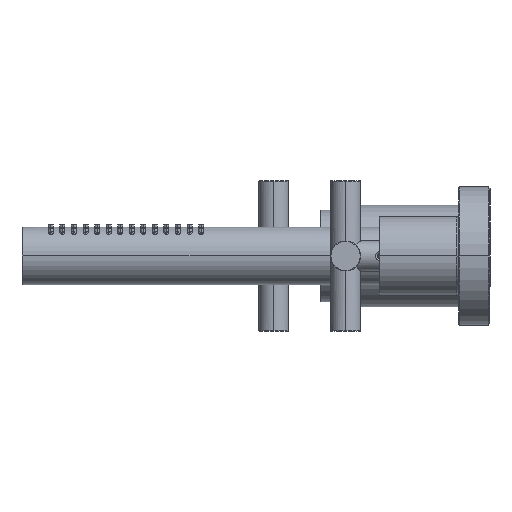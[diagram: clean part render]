
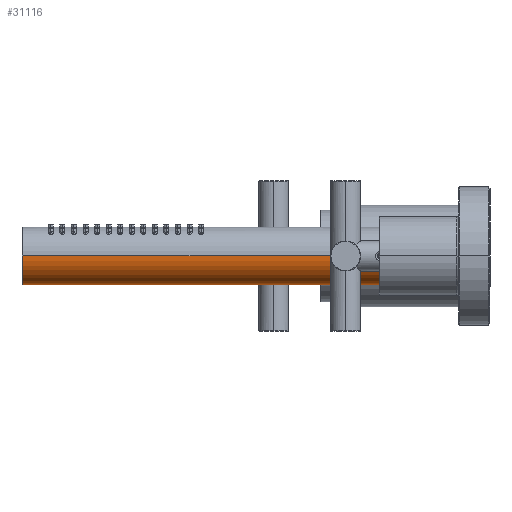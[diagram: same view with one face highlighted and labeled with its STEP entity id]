
A CAD part, left-side view. The second image highlights one B-rep face of the part: STEP entity #31116.
In plain terms, the highlighted cylindrical face has radius 12.5 mm (diameter 25 mm), a partial arc.
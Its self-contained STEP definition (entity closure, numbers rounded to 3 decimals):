
#20243=DIRECTION('',(0.,1.,0.));
#20244=VECTOR('',#20243,186.4);
#20245=CARTESIAN_POINT('',(-12.5,15.8,0.));
#20246=LINE('',#20245,#20244);
#23235=CARTESIAN_POINT('',(0.,202.2,0.));
#23236=DIRECTION('',(0.,1.,0.));
#23237=DIRECTION('',(1.,0.,0.));
#23238=AXIS2_PLACEMENT_3D('',#23235,#23236,#23237);
#23240=CARTESIAN_POINT('',(0.,15.8,0.));
#23241=DIRECTION('',(0.,-1.,0.));
#23242=DIRECTION('',(-1.,0.,0.));
#23243=AXIS2_PLACEMENT_3D('',#23240,#23241,#23242);
#23245=DIRECTION('',(0.,1.,0.));
#23246=VECTOR('',#23245,186.4);
#23247=CARTESIAN_POINT('',(12.5,15.8,0.));
#23248=LINE('',#23247,#23246);
#30404=CARTESIAN_POINT('',(12.5,202.2,0.));
#30405=CARTESIAN_POINT('',(-12.5,202.2,0.));
#30406=VERTEX_POINT('',#30404);
#30407=VERTEX_POINT('',#30405);
#30408=CARTESIAN_POINT('',(-12.5,15.8,0.));
#30409=VERTEX_POINT('',#30408);
#30410=CARTESIAN_POINT('',(12.5,15.8,0.));
#30411=VERTEX_POINT('',#30410);
#31104=CARTESIAN_POINT('',(0.,15.5,0.));
#31105=DIRECTION('',(0.,1.,0.));
#31106=DIRECTION('',(-1.,0.,0.));
#31107=AXIS2_PLACEMENT_3D('',#31104,#31105,#31106);
#31108=CYLINDRICAL_SURFACE('',#31107,12.5);
#31109=ORIENTED_EDGE('',*,*,#31098,.T.);
#31110=ORIENTED_EDGE('',*,*,#30725,.F.);
#31112=ORIENTED_EDGE('',*,*,#31111,.T.);
#31113=ORIENTED_EDGE('',*,*,#30721,.T.);
#31114=EDGE_LOOP('',(#31109,#31110,#31112,#31113));
#31115=FACE_OUTER_BOUND('',#31114,.F.);
#31116=ADVANCED_FACE('',(#31115),#31108,.T.);
#23239=CIRCLE('',#23238,12.5);
#23244=CIRCLE('',#23243,12.5);
#30721=EDGE_CURVE('',#30411,#30406,#23248,.T.);
#30725=EDGE_CURVE('',#30409,#30407,#20246,.T.);
#31098=EDGE_CURVE('',#30406,#30407,#23239,.T.);
#31111=EDGE_CURVE('',#30409,#30411,#23244,.T.);
